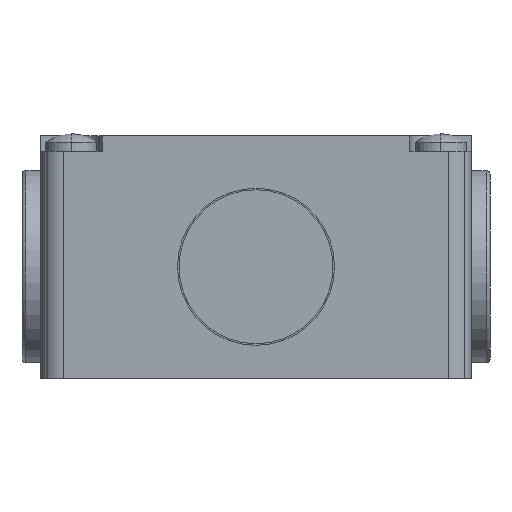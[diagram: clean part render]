
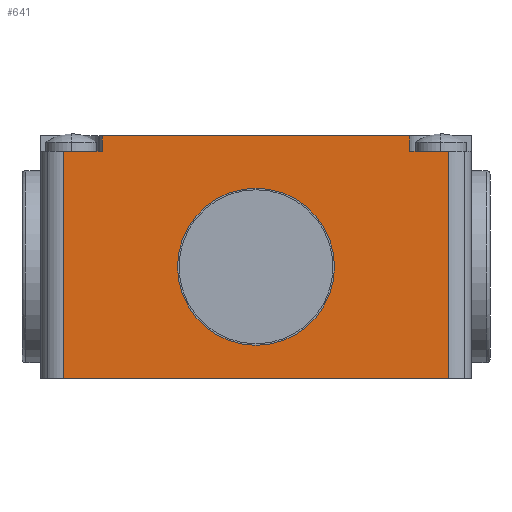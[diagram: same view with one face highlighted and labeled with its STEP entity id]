
A CAD part, front view. The second image highlights one B-rep face of the part: STEP entity #641.
In plain terms, the highlighted planar face has unit normal (0, -1, 0).
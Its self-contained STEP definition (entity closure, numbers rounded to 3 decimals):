
#368 = DIRECTION ( 'NONE',  ( 0., -1., 0. ) ) ;
#377 = VECTOR ( 'NONE', #9899, 1000. ) ;
#392 = CARTESIAN_POINT ( 'NONE',  ( -25., -56.8, -14.5 ) ) ;
#548 = ORIENTED_EDGE ( 'NONE', *, *, #7753, .F. ) ;
#641 = ADVANCED_FACE ( 'NONE', ( #16373, #2196 ), #8622, .T. ) ;
#770 = LINE ( 'NONE', #8723, #377 ) ;
#926 = DIRECTION ( 'NONE',  ( 0., 0., 1. ) ) ;
#1097 = CARTESIAN_POINT ( 'NONE',  ( -20., -56.8, 17. ) ) ;
#1117 = LINE ( 'NONE', #8907, #15258 ) ;
#1237 = CARTESIAN_POINT ( 'NONE',  ( -28., -56.8, 15. ) ) ;
#1354 = DIRECTION ( 'NONE',  ( -1., 0., 0. ) ) ;
#1603 = ORIENTED_EDGE ( 'NONE', *, *, #9425, .F. ) ;
#1800 = LINE ( 'NONE', #14616, #15530 ) ;
#1911 = EDGE_LOOP ( 'NONE', ( #9622, #16492 ) ) ;
#1997 = DIRECTION ( 'NONE',  ( 0., 0., -1. ) ) ;
#2196 = FACE_OUTER_BOUND ( 'NONE', #16818, .T. ) ;
#2494 = EDGE_CURVE ( 'NONE', #2673, #2786, #15355, .T. ) ;
#2516 = EDGE_CURVE ( 'NONE', #13518, #4540, #770, .T. ) ;
#2564 = CARTESIAN_POINT ( 'NONE',  ( 25., -56.8, 15. ) ) ;
#2592 = EDGE_CURVE ( 'NONE', #9841, #2786, #13689, .T. ) ;
#2673 = VERTEX_POINT ( 'NONE', #1097 ) ;
#2786 = VERTEX_POINT ( 'NONE', #3942 ) ;
#3076 = VECTOR ( 'NONE', #12908, 1000. ) ;
#3792 = CARTESIAN_POINT ( 'NONE',  ( 0., -56.8, 0. ) ) ;
#3942 = CARTESIAN_POINT ( 'NONE',  ( 20., -56.8, 17. ) ) ;
#4119 = VERTEX_POINT ( 'NONE', #5460 ) ;
#4195 = VECTOR ( 'NONE', #15984, 1000. ) ;
#4273 = EDGE_CURVE ( 'NONE', #10256, #4119, #11318, .T. ) ;
#4540 = VERTEX_POINT ( 'NONE', #2564 ) ;
#4834 = AXIS2_PLACEMENT_3D ( 'NONE', #3792, #13109, #5149 ) ;
#5039 = CARTESIAN_POINT ( 'NONE',  ( 0., -56.8, 10.2 ) ) ;
#5149 = DIRECTION ( 'NONE',  ( 0., 0., -1. ) ) ;
#5320 = VERTEX_POINT ( 'NONE', #15725 ) ;
#5460 = CARTESIAN_POINT ( 'NONE',  ( 0., -56.8, -10.2 ) ) ;
#6271 = VECTOR ( 'NONE', #1354, 1000. ) ;
#6375 = CARTESIAN_POINT ( 'NONE',  ( -25., -56.8, -14.5 ) ) ;
#6605 = DIRECTION ( 'NONE',  ( 1., 0., 0. ) ) ;
#7020 = ORIENTED_EDGE ( 'NONE', *, *, #15625, .F. ) ;
#7552 = ORIENTED_EDGE ( 'NONE', *, *, #15018, .T. ) ;
#7743 = LINE ( 'NONE', #1237, #10407 ) ;
#7753 = EDGE_CURVE ( 'NONE', #15742, #2673, #1117, .T. ) ;
#7824 = ORIENTED_EDGE ( 'NONE', *, *, #2516, .T. ) ;
#8345 = CARTESIAN_POINT ( 'NONE',  ( 0., -56.8, 0. ) ) ;
#8622 = PLANE ( 'NONE',  #9801 ) ;
#8665 = VERTEX_POINT ( 'NONE', #6375 ) ;
#8723 = CARTESIAN_POINT ( 'NONE',  ( 25., -56.8, -14.5 ) ) ;
#8850 = ORIENTED_EDGE ( 'NONE', *, *, #2592, .T. ) ;
#8907 = CARTESIAN_POINT ( 'NONE',  ( -20., -56.8, 15. ) ) ;
#9331 = DIRECTION ( 'NONE',  ( 0., 0., 1. ) ) ;
#9425 = EDGE_CURVE ( 'NONE', #8665, #5320, #1800, .T. ) ;
#9622 = ORIENTED_EDGE ( 'NONE', *, *, #15577, .F. ) ;
#9662 = DIRECTION ( 'NONE',  ( 0., 0., -1. ) ) ;
#9801 = AXIS2_PLACEMENT_3D ( 'NONE', #9916, #9975, #1997 ) ;
#9841 = VERTEX_POINT ( 'NONE', #13082 ) ;
#9899 = DIRECTION ( 'NONE',  ( 0., 0., 1. ) ) ;
#9916 = CARTESIAN_POINT ( 'NONE',  ( -25., -56.8, -14.5 ) ) ;
#9975 = DIRECTION ( 'NONE',  ( 0., -1., 0. ) ) ;
#10225 = CARTESIAN_POINT ( 'NONE',  ( 20., -56.8, 15. ) ) ;
#10256 = VERTEX_POINT ( 'NONE', #5039 ) ;
#10407 = VECTOR ( 'NONE', #6605, 1000. ) ;
#10637 = CARTESIAN_POINT ( 'NONE',  ( 28., -56.8, 15. ) ) ;
#10812 = CARTESIAN_POINT ( 'NONE',  ( -20., -56.8, 15. ) ) ;
#11241 = LINE ( 'NONE', #392, #4195 ) ;
#11318 = CIRCLE ( 'NONE', #13075, 10.2 ) ;
#12908 = DIRECTION ( 'NONE',  ( 0., 0., 1. ) ) ;
#13075 = AXIS2_PLACEMENT_3D ( 'NONE', #8345, #368, #9662 ) ;
#13082 = CARTESIAN_POINT ( 'NONE',  ( 20., -56.8, 15. ) ) ;
#13109 = DIRECTION ( 'NONE',  ( 0., -1., 0. ) ) ;
#13187 = CARTESIAN_POINT ( 'NONE',  ( 25., -56.8, -14.5 ) ) ;
#13518 = VERTEX_POINT ( 'NONE', #13187 ) ;
#13689 = LINE ( 'NONE', #10225, #3076 ) ;
#14537 = VECTOR ( 'NONE', #16535, 1000. ) ;
#14616 = CARTESIAN_POINT ( 'NONE',  ( -25., -56.8, -14.5 ) ) ;
#14807 = CIRCLE ( 'NONE', #4834, 10.2 ) ;
#15018 = EDGE_CURVE ( 'NONE', #8665, #13518, #11241, .T. ) ;
#15181 = CARTESIAN_POINT ( 'NONE',  ( -25., -56.8, 17. ) ) ;
#15258 = VECTOR ( 'NONE', #926, 1000. ) ;
#15355 = LINE ( 'NONE', #15181, #14537 ) ;
#15469 = EDGE_CURVE ( 'NONE', #4540, #9841, #16057, .T. ) ;
#15530 = VECTOR ( 'NONE', #9331, 1000. ) ;
#15577 = EDGE_CURVE ( 'NONE', #4119, #10256, #14807, .T. ) ;
#15625 = EDGE_CURVE ( 'NONE', #5320, #15742, #7743, .T. ) ;
#15725 = CARTESIAN_POINT ( 'NONE',  ( -25., -56.8, 15. ) ) ;
#15742 = VERTEX_POINT ( 'NONE', #10812 ) ;
#15984 = DIRECTION ( 'NONE',  ( 1., 0., 0. ) ) ;
#16057 = LINE ( 'NONE', #10637, #6271 ) ;
#16147 = ORIENTED_EDGE ( 'NONE', *, *, #15469, .T. ) ;
#16373 = FACE_BOUND ( 'NONE', #1911, .T. ) ;
#16492 = ORIENTED_EDGE ( 'NONE', *, *, #4273, .F. ) ;
#16535 = DIRECTION ( 'NONE',  ( 1., 0., 0. ) ) ;
#16818 = EDGE_LOOP ( 'NONE', ( #7552, #7824, #16147, #8850, #17210, #548, #7020, #1603 ) ) ;
#17210 = ORIENTED_EDGE ( 'NONE', *, *, #2494, .F. ) ;
